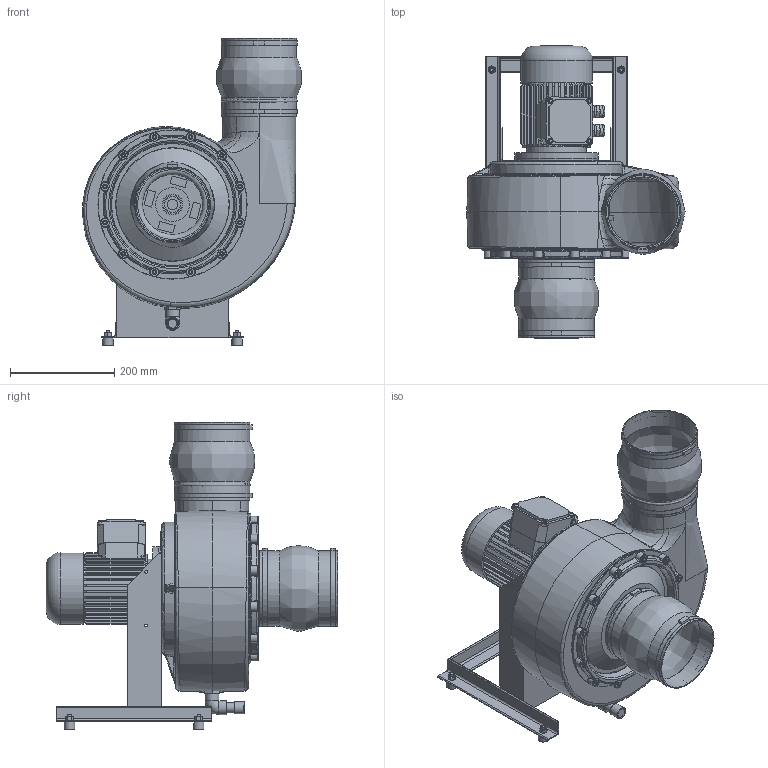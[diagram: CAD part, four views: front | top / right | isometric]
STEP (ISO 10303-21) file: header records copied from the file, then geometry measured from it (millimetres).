
FILE_DESCRIPTION( ( 'Unknown' ), '1' );
FILE_NAME( 'K:/HOME/HLT_CAD/Z/HF/3D/Zusammenstellung/HFR/HFR 15_17/HFR...-15D/DS_1/HFR_140-15D/GR360/HFR_140-15D_DS1_GR_360_071.stp', 'Unknown', ( 'Unknown' ), ( 'Unknown' ), 'PSStep 14.0', 'Unknown', ' ' );
FILE_SCHEMA( ( 'AUTOMOTIVE_DESIGN { 1 0 10303 214 1 1 1 1 }' ) );
Length unit declared in the file: millimetre
Products named in the file (34): 5217_Laufradbefestigung; 5217_Drehteil; 5217_Flachdichtung_Ø32; 5217_Schraubkappe; 5217_Flachdichtung_Ø63; HFR-140_GR; Ensat-Buchse-M8; Ensat-Buchse-M6; HFR 140_GR; 5282_Gestell_HFR140_15_17_DS1; Angle 30x30x3-oa0; Angle 30x30x3-oa1; Angle 30x30x3-oa2; 360°-oa3; 5159_Kondensatablauf_125-315; Winkel_90°_G1_2; Stopfen_G1_2-oa4; Rohr_20; Verschlusskappe_20; 5280_Laufrad140; 5267_Stahlnabe; 5280_Deckscheibe; 5280_Grundplatte; 1108_14; 6203_Kugelmanschette; 6203_Manschettenband_HFR140; 6203_Schelle_HFR140; Assem1; 6611_Motorring_Bg71; 140 mit laufrad HF R 140; Schwidä_20x15; 6kant_M8; B5_71a_2HIHI
Assembly tree (59 placements, depth 3):
  Assem1
    6611_Motorring_Bg71
    140 mit laufrad HF R 140
    Schwidä_20x15  x4
    6kant_M8  x4
    B5_71a_2HIHI
    5282_Gestell_HFR140_15_17_DS1
      Angle 30x30x3-oa0
      Angle 30x30x3-oa1
      Angle 30x30x3-oa2
      360°-oa3
    HFR-140_GR
      Ensat-Buchse-M8  x8
      Ensat-Buchse-M6  x12
      HFR 140_GR
      HFR 140_GR
    5159_Kondensatablauf_125-315
      Winkel_90°_G1_2
      Stopfen_G1_2-oa4
      Rohr_20
      Verschlusskappe_20
    6203_Kugelmanschette  x2
      6203_Manschettenband_HFR140
      6203_Schelle_HFR140
    5280_Laufrad140
      5267_Stahlnabe
      5280_Deckscheibe
      5280_Grundplatte
      1108_14
    5217_Laufradbefestigung
      5217_Drehteil
      5217_Flachdichtung_Ø32
      5217_Schraubkappe
      5217_Flachdichtung_Ø63
Bounding box: 418.9 x 560 x 590 mm (x, y, z)
Volume: 5448874.6 mm3; surface area: 2182332.8 mm2
Topology: 54 solids, 55 shells, 2450 faces, 5756 edges, 3601 vertices
Faces by surface type: plane 1086, cylinder 641, bspline 357, cone 180, torus 152, offset 26, revolution 8
Full cylindrical faces by diameter (mm): 3.5 x2, 4.134 x1, 4.917 x16, 5.5 x4, 6 x8, 6.35 x2, 6.647 x12, 8 x8, 9 x18, 10 x8, 10.5 x1, 11 x12, 12 x81, 13 x85, 14 x1, 16 x14, 16.8 x1, 17 x20, 20 x8, 20.955 x1, 22.212 x1, 23 x1, 24 x4, 25 x1, 26.5 x2, 30.291 x1, 32 x1, 33.25 x1, 37 x1, 40 x1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
Entity records: 136888 total; most frequent: CARTESIAN_POINT 72641, ORIENTED_EDGE 9394, DIRECTION 8672, EDGE_CURVE 4697, AXIS2_PLACEMENT_3D 3508, VERTEX_POINT 3133, EDGE_LOOP 2862, FACE_OUTER_BOUND 2526
